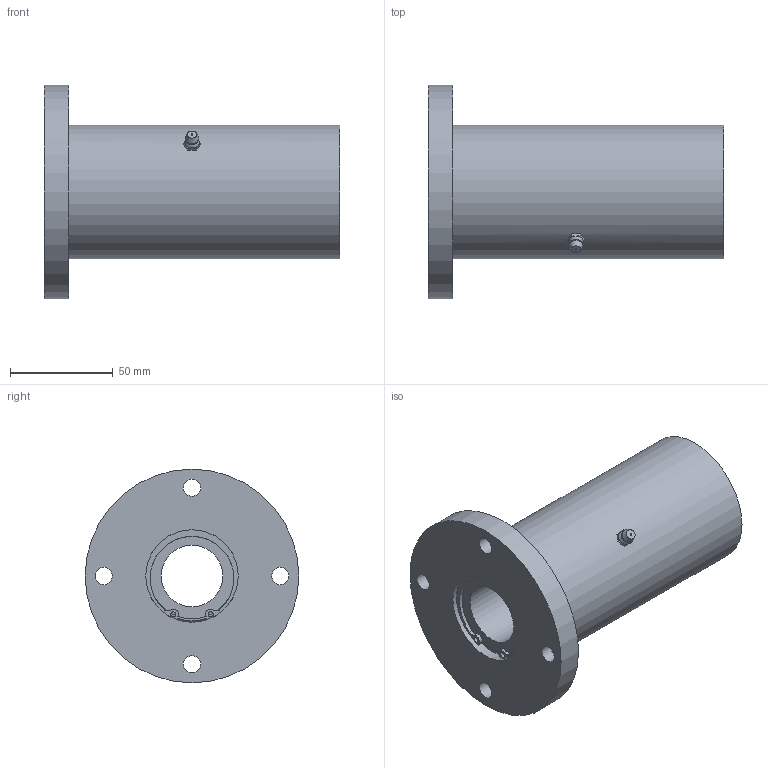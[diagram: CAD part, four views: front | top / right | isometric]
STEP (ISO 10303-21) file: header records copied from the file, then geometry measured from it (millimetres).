
FILE_DESCRIPTION((''),'2;1');
FILE_NAME('D:\製品 (図面)\カタログ用3D\リニアベアリング関連(改)\STEP形式\LFW-OH\LFW30-OH.stp','2010-01-22T16:17:28',('Tsuchiya'),(''),'Autodesk Inventor 10','Autodesk Inventor 10','');
FILE_SCHEMA(('AUTOMOTIVE_DESIGN { 1 0 10303 214 1 1 1 1 }'));
Length unit declared in the file: millimetre
Products named in the file (1): LFW30-OH
Bounding box: 144 x 104 x 104 mm (x, y, z)
Volume: 427766.2 mm3; surface area: 69594.1 mm2
Topology: 1 solids, 7 shells, 105 faces, 260 edges, 160 vertices
Faces by surface type: bspline 36, plane 31, cylinder 27, cone 7, sphere 2, torus 2
Full cylindrical faces by diameter (mm): 2.5 x2, 8.376 x4, 30 x2, 41.7 x2, 43 x2, 45 x8, 65 x1, 104 x1
Entity records: 3221 total; most frequent: CARTESIAN_POINT 950, DIRECTION 484, ORIENTED_EDGE 404, AXIS2_PLACEMENT_3D 224, EDGE_CURVE 202, EDGE_LOOP 178, CIRCLE 150, VERTEX_POINT 142
